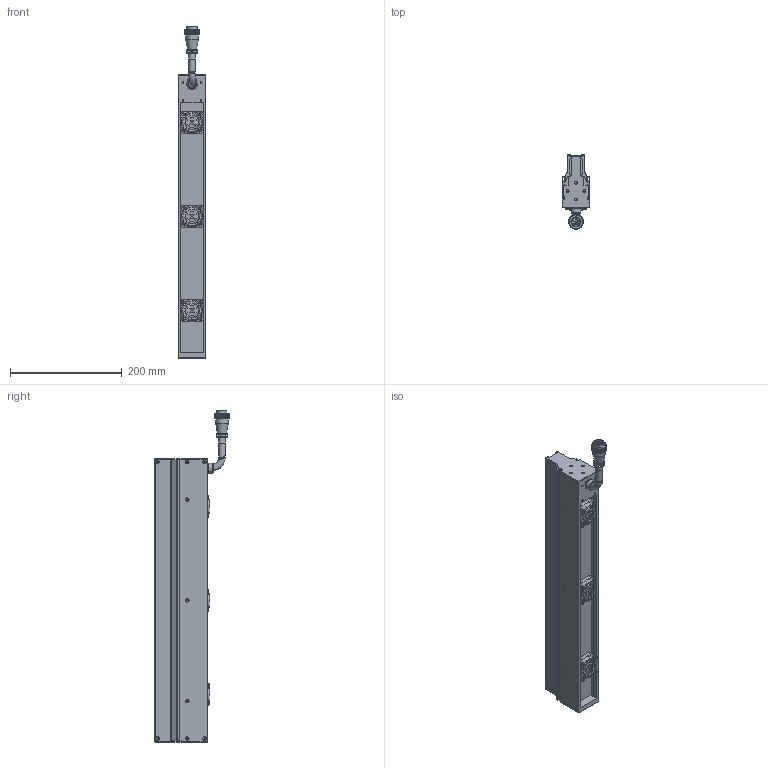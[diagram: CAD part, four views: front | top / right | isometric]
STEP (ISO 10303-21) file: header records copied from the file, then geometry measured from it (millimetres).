
FILE_DESCRIPTION (( 'STEP AP203' ), '1' );
FILE_NAME ('OPT-LSS506-R-V3.1U尨砩芞.STEP', '2025-01-21T03:34:52', ( 'USER' ), ( '' ), 'SwSTEP 2.0', 'SolidWorks 2016', '' );
FILE_SCHEMA (( 'CONFIG_CONTROL_DESIGN' ));
Products named in the file (2): OPT-LSS506-R-V3.1U尨砩芞
Bounding box: 50 x 133 x 593.1 mm (x, y, z)
Volume: 1702885.1 mm3; surface area: 280411.5 mm2
Topology: 18 solids, 30 shells, 2664 faces, 6873 edges, 4361 vertices
Faces by surface type: bspline 1036, cylinder 775, plane 617, torus 185, cone 51
Full cylindrical faces by diameter (mm): 1 x2, 1.1 x2, 1.4 x2, 1.6 x12, 2 x3, 2.5 x22, 3 x8, 3.2 x16, 3.4 x18, 3.5 x8, 5 x8, 6.2 x12, 8 x1, 11.6 x1, 11.7 x3, 12 x1, 15 x1, 15.9 x1, 17.5 x1, 18 x1, 18.5 x1, 22.8 x1, 24 x1, 24.8 x3, 38 x3
Entity records: 111774 total; most frequent: CARTESIAN_POINT 58712, ORIENTED_EDGE 13064, DIRECTION 6920, EDGE_CURVE 6532, VERTEX_POINT 4282, B_SPLINE_CURVE_WITH_KNOTS 3992, EDGE_LOOP 3056, FACE_OUTER_BOUND 2863
